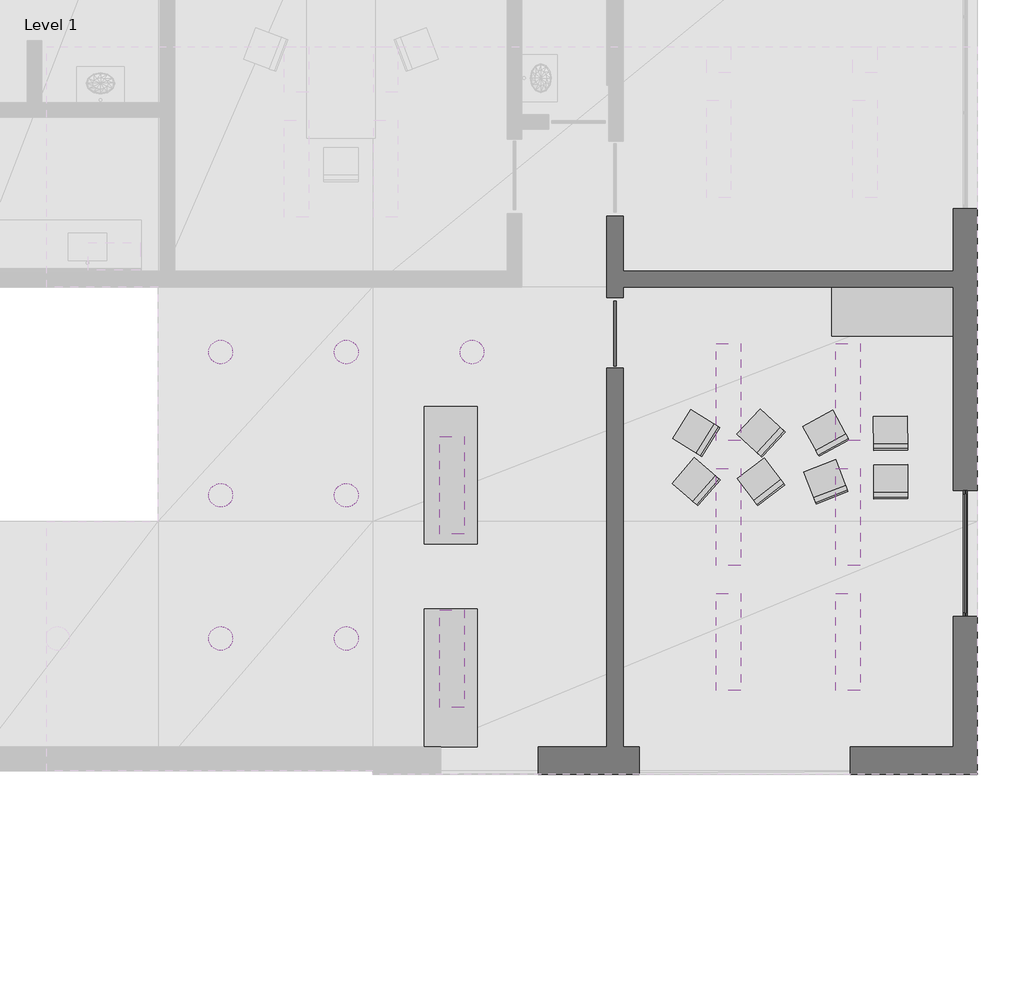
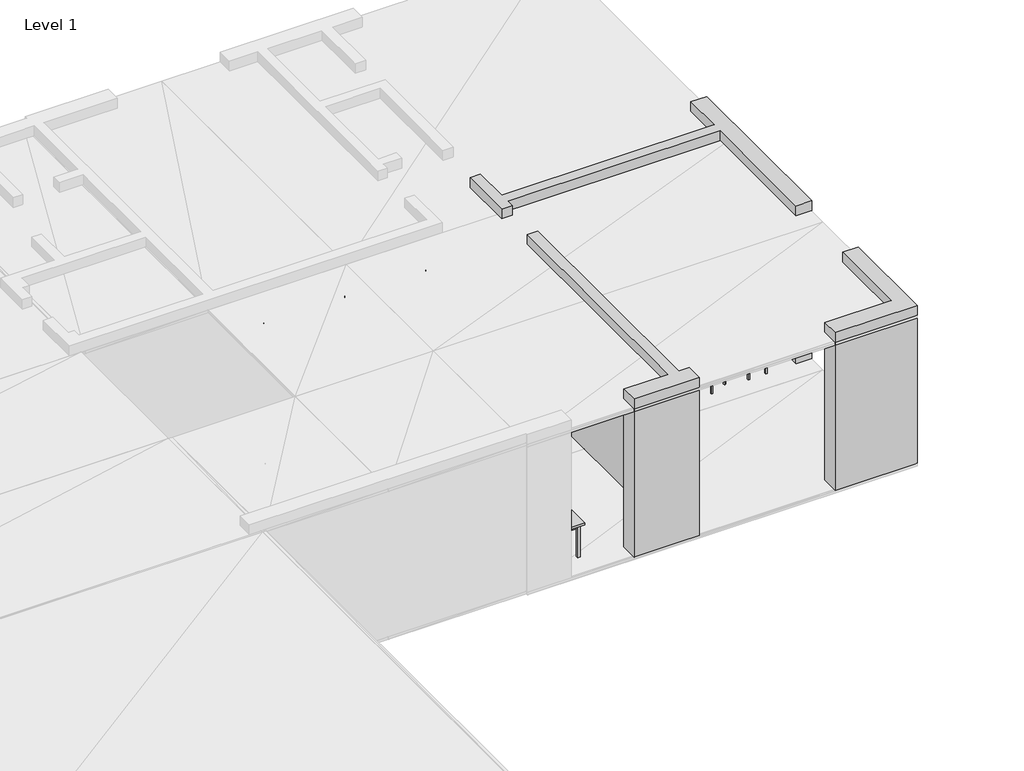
# One storey, part 10 of 14: 34 proxies.
"""IFC4 building model written with IfcOpenShell, lengths in millimetres."""

from ifc_helpers import new_model, si_unit, frame, origin, origin_with_axes, place, context, project, spatial, polyline, outline, extrude, faceted_brep, element, save

model = new_model("IFC4")

# Units and contexts
model_context = context("Model", 3, world=origin())
ifc_project = project(units=[si_unit("LENGTHUNIT", "METRE", prefix="MILLI")], contexts=[model_context])

# Site, building, storey
site = spatial("IfcSite", under=ifc_project)
building = spatial("IfcBuilding", under=site)
storey = spatial("IfcBuildingStorey", under=building, Name="Level 1", Elevation=0.0)

# Proxies
placement = place(None, origin())
element("IfcBuildingElementProxy", 1, Name="Generic Models", at=placement, inside=storey, context=model_context, shape_type="SweptSolid", body=[
    extrude(outline(polyline([(22366.018295, 10130.000114), (21116.018295, 10130.000114), (21116.018295, 10470.000267), (21966.016769, 10470.000267), (21966.016769, 15144.158363), (22166.017532, 15144.158363), (22166.017532, 10470.000267), (22366.018295, 10470.000267), (22366.018295, 10130.000114)])), origin_with_axes(), (0.0, 0.0, 1.0), 3200.000048),
])
element("IfcBuildingElementProxy", 2, Name="Generic Models", at=placement, inside=storey, context=model_context, shape_type="SweptSolid", body=[
    extrude(outline(polyline([(26536.018372, 10130.000114), (24966.016769, 10130.000114), (24966.016769, 10470.000267), (26236.017227, 10470.000267), (26236.017227, 12079.999924), (26536.018372, 12079.999924), (26536.018372, 10130.000114)])), origin_with_axes(), (0.0, 0.0, 1.0), 3200.000048),
])
element("IfcBuildingElementProxy", 3, Name="Generic Models", at=placement, inside=storey, context=model_context, shape_type="Brep", body=[
    faceted_brep([(21966.016769, 17020.000458, 2099.999905), (22166.017532, 17020.000458, 2099.999905), (22166.017532, 17020.000458, 0.0), (21966.016769, 17020.000458, 0.0), (21966.016769, 17040.000916, 2099.999905), (22166.017532, 17040.000916, 2099.999905), (21966.016769, 16014.158249, 2099.999905), (21966.016769, 16014.158249, 0.0), (22166.017532, 16014.158249, 0.0), (22166.017532, 16014.158249, 2099.999905), (22166.017532, 15994.157791, 2099.999905), (21966.016769, 15994.157791, 2099.999905), (26236.017227, 17110.00061, 0.0), (26236.017227, 16340.000153, 0.0), (26236.017227, 16340.000153, 3200.000048), (26236.017227, 17110.00061, 3200.000048), (26536.018372, 17110.00061, 0.0), (26536.018372, 17110.00061, 3200.000048), (26536.018372, 13630.000114, 0.0), (26536.018372, 13630.000114, 3200.000048), (26236.017227, 13630.000114, 0.0), (26236.017227, 13630.000114, 3200.000048), (26236.017227, 16140.001297, 0.0), (26236.017227, 16140.001297, 3200.000048), (22166.017532, 16140.001297, 0.0), (22166.017532, 16140.001297, 3200.000048), (22166.017532, 15994.157791, 3200.000048), (21966.016769, 15994.157791, 3200.000048), (21966.016769, 17040.000916, 3200.000048), (22166.017532, 17040.000916, 3200.000048), (22166.017532, 16340.000153, 3200.000048), (22166.017532, 16340.000153, 0.0)], [[[0, 1, 2, 3]], [[4, 5, 1, 0]], [[6, 7, 8, 9]], [[10, 11, 6, 9]], [[12, 13, 14, 15]], [[16, 12, 15, 17]], [[18, 16, 17, 19]], [[20, 18, 19, 21]], [[22, 20, 21, 23]], [[24, 22, 23, 25]], [[9, 8, 24, 25, 26, 10]], [[10, 26, 27, 11]], [[3, 7, 6, 11, 27, 28, 4, 0]], [[4, 28, 29, 5]], [[1, 5, 29, 30, 31, 2]], [[13, 31, 30, 14]], [[30, 29, 28, 27, 26, 25, 23, 21, 19, 17, 15, 14]], [[16, 18, 20, 22, 24, 8, 7, 3, 2, 31, 13, 12]]]),
])
element("IfcBuildingElementProxy", 4, Name="Generic Models", at=placement, inside=storey, context=model_context, shape_type="SweptSolid", body=[
    extrude(outline(polyline([(22048.517227, 15968.658447), (22083.517075, 15968.658447), (22083.517075, 15169.657707), (22048.517227, 15169.657707), (22048.517227, 15968.658447)])), origin_with_axes(), (0.0, 0.0, 1.0), 2099.999905),
])
element("IfcBuildingElementProxy", 5, Name="Generic Models", at=placement, inside=storey, context=model_context, shape_type="SweptSolid", body=[
    extrude(outline(polyline([(26408.500671, 13587.499619), (26363.500595, 13587.499619), (26363.500595, 13632.499695), (26408.500671, 13632.499695), (26408.500671, 13587.499619)])), frame((0.0, 0.0, 850.000024), z_axis=(0.0, 0.0, 1.0), x_axis=(1.0, 0.0, 0.0)), (0.0, 0.0, 1.0), 1499.999881),
    extrude(outline(polyline([(26408.500671, 12077.500343), (26363.500595, 12077.500343), (26363.500595, 12122.50042), (26408.500671, 12122.50042), (26408.500671, 12077.500343)])), frame((0.0, 0.0, 850.000024), z_axis=(0.0, 0.0, 1.0), x_axis=(1.0, 0.0, 0.0)), (0.0, 0.0, 1.0), 1499.999881),
    extrude(outline(polyline([(26408.500671, 12079.999924), (26363.500595, 12079.999924), (26363.500595, 13630.000114), (26408.500671, 13630.000114), (26408.500671, 12079.999924)])), frame((0.0, 0.0, 2327.500105), z_axis=(0.0, 0.0, 1.0), x_axis=(1.0, 0.0, 0.0)), (0.0, 0.0, 1.0), 44.999838),
    extrude(outline(polyline([(26408.500671, 12079.999924), (26363.500595, 12079.999924), (26363.500595, 13630.000114), (26408.500671, 13630.000114), (26408.500671, 12079.999924)])), frame((0.0, 0.0, 827.499986), z_axis=(0.0, 0.0, 1.0), x_axis=(1.0, 0.0, 0.0)), (0.0, 0.0, 1.0), 45.000016),
    extrude(outline(polyline([(26395.000458, 12079.999924), (26377.000809, 12079.999924), (26377.000809, 13630.000114), (26395.000458, 13630.000114), (26395.000458, 12079.999924)])), frame((0.0, 0.0, 850.000024), z_axis=(0.0, 0.0, 1.0), x_axis=(1.0, 0.0, 0.0)), (0.0, 0.0, 1.0), 1499.999881),
])
element("IfcBuildingElementProxy", 6, Name="Generic Models", at=placement, inside=storey, context=model_context, shape_type="SweptSolid", body=[
    extrude(outline(polyline([(19716.016769, 12970.000267), (19716.016769, 14670.000076), (20366.018295, 14670.000076), (20366.018295, 12970.000267), (19716.016769, 12970.000267)])), frame((0.0, 0.0, 709.999979), z_axis=(0.0, 0.0, 1.0), x_axis=(1.0, 0.0, 0.0)), (0.0, 0.0, 1.0), 40.000021),
])
element("IfcBuildingElementProxy", 7, Name="Generic Models", at=placement, inside=storey, context=model_context, shape_type="SweptSolid", body=[
    extrude(outline(polyline([(19716.016769, 10470.000267), (19716.016769, 12170.000076), (20366.018295, 12170.000076), (20366.018295, 10470.000267), (19716.016769, 10470.000267)])), frame((0.0, 0.0, 709.999979), z_axis=(0.0, 0.0, 1.0), x_axis=(1.0, 0.0, 0.0)), (0.0, 0.0, 1.0), 40.000021),
])
element("IfcBuildingElementProxy", 8, Name="Generic Models", at=placement, inside=storey, context=model_context, shape_type="SweptSolid", body=[
    extrude(outline(polyline([(23614.358902, 14246.0289), (23314.359665, 14246.0289), (23314.359665, 15446.029663), (23614.358902, 15446.029663), (23614.358902, 14246.0289)])), frame((0.0, 0.0, 2910.000086), z_axis=(0.0, 0.0, 1.0), x_axis=(1.0, 0.0, 0.0)), (0.0, 0.0, 1.0), 39.999962),
])
element("IfcBuildingElementProxy", 9, Name="Generic Models", at=placement, inside=storey, context=model_context, shape_type="SweptSolid", body=[
    extrude(outline(polyline([(25087.715149, 14246.0289), (24787.715912, 14246.0289), (24787.715912, 15446.029663), (25087.715149, 15446.029663), (25087.715149, 14246.0289)])), frame((0.0, 0.0, 2910.000086), z_axis=(0.0, 0.0, 1.0), x_axis=(1.0, 0.0, 0.0)), (0.0, 0.0, 1.0), 39.999962),
])
element("IfcBuildingElementProxy", 10, Name="Generic Models", at=placement, inside=storey, context=model_context, shape_type="SweptSolid", body=[
    extrude(outline(polyline([(23614.358902, 12704.999924), (23314.359665, 12704.999924), (23314.359665, 13905.000687), (23614.358902, 13905.000687), (23614.358902, 12704.999924)])), frame((0.0, 0.0, 2910.000086), z_axis=(0.0, 0.0, 1.0), x_axis=(1.0, 0.0, 0.0)), (0.0, 0.0, 1.0), 39.999962),
])
element("IfcBuildingElementProxy", 11, Name="Generic Models", at=placement, inside=storey, context=model_context, shape_type="SweptSolid", body=[
    extrude(outline(polyline([(25087.715149, 12704.999924), (24787.715912, 12704.999924), (24787.715912, 13905.000687), (25087.715149, 13905.000687), (25087.715149, 12704.999924)])), frame((0.0, 0.0, 2910.000086), z_axis=(0.0, 0.0, 1.0), x_axis=(1.0, 0.0, 0.0)), (0.0, 0.0, 1.0), 39.999962),
])
element("IfcBuildingElementProxy", 12, Name="Generic Models", at=placement, inside=storey, context=model_context, shape_type="SweptSolid", body=[
    extrude(outline(polyline([(23614.358902, 11163.971901), (23314.359665, 11163.971901), (23314.359665, 12363.972664), (23614.358902, 12363.972664), (23614.358902, 11163.971901)])), frame((0.0, 0.0, 2910.000086), z_axis=(0.0, 0.0, 1.0), x_axis=(1.0, 0.0, 0.0)), (0.0, 0.0, 1.0), 39.999962),
])
element("IfcBuildingElementProxy", 13, Name="Generic Models", at=placement, inside=storey, context=model_context, shape_type="SweptSolid", body=[
    extrude(outline(polyline([(25087.715149, 11163.971901), (24787.715912, 11163.971901), (24787.715912, 12363.972664), (25087.715149, 12363.972664), (25087.715149, 11163.971901)])), frame((0.0, 0.0, 2910.000086), z_axis=(0.0, 0.0, 1.0), x_axis=(1.0, 0.0, 0.0)), (0.0, 0.0, 1.0), 39.999962),
])
element("IfcBuildingElementProxy", 14, Name="Generic Models", at=placement, inside=storey, context=model_context, shape_type="SweptSolid", body=[
    extrude(outline(polyline([(20204.330444, 10957.942963), (19904.331207, 10957.942963), (19904.331207, 12157.943726), (20204.330444, 12157.943726), (20204.330444, 10957.942963)])), frame((0.0, 0.0, 2910.000086), z_axis=(0.0, 0.0, 1.0), x_axis=(1.0, 0.0, 0.0)), (0.0, 0.0, 1.0), 39.999962),
])
element("IfcBuildingElementProxy", 15, Name="Generic Models", at=placement, inside=storey, context=model_context, shape_type="SweptSolid", body=[
    extrude(outline(polyline([(20204.330444, 13097.499847), (19904.331207, 13097.499847), (19904.331207, 14297.50061), (20204.330444, 14297.50061), (20204.330444, 13097.499847)])), frame((0.0, 0.0, 2910.000086), z_axis=(0.0, 0.0, 1.0), x_axis=(1.0, 0.0, 0.0)), (0.0, 0.0, 1.0), 39.999962),
])
element("IfcBuildingElementProxy", 16, Name="Generic Models", at=placement, inside=storey, context=model_context, shape_type="SweptSolid", body=[
    extrude(outline(polyline([(18887.9776, 11748.607635), (18874.361038, 11723.13118), (18856.033325, 11700.800896), (18833.703995, 11682.47509), (18808.227539, 11668.857574), (18780.584335, 11660.471916), (18751.834869, 11657.640457), (18723.085403, 11660.471916), (18695.4422, 11668.857574), (18669.965744, 11682.47509), (18647.636414, 11700.800896), (18629.308701, 11723.13118), (18615.692139, 11748.607635), (18607.305527, 11776.251793), (18604.475021, 11805.000305), (18607.305527, 11833.748817), (18615.692139, 11861.392975), (18629.308701, 11886.869431), (18647.636414, 11909.199715), (18669.965744, 11927.52552), (18695.4422, 11941.143036), (18723.085403, 11949.528694), (18751.834869, 11952.360153), (18780.584335, 11949.528694), (18808.227539, 11941.143036), (18833.703995, 11927.52552), (18856.033325, 11909.199715), (18874.361038, 11886.869431), (18887.9776, 11861.392975), (18896.364212, 11833.748817), (18899.194717, 11805.000305), (18896.364212, 11776.251793), (18887.9776, 11748.607635)])), frame((0.0, 0.0, 2910.000086), z_axis=(0.0, 0.0, 1.0), x_axis=(1.0, 0.0, 0.0)), (0.0, 0.0, 1.0), 39.999962),
])
element("IfcBuildingElementProxy", 17, Name="Generic Models", at=placement, inside=storey, context=model_context, shape_type="SweptSolid", body=[
    extrude(outline(polyline([(17337.978363, 11748.607635), (17324.361801, 11723.13118), (17306.034088, 11700.800896), (17283.704758, 11682.47509), (17258.228302, 11668.857574), (17230.585098, 11660.471916), (17201.835632, 11657.640457), (17173.086166, 11660.471916), (17145.442963, 11668.857574), (17119.966507, 11682.47509), (17097.637177, 11700.800896), (17079.309464, 11723.13118), (17065.692902, 11748.607635), (17057.30629, 11776.251793), (17054.475784, 11805.000305), (17057.30629, 11833.748817), (17065.692902, 11861.392975), (17079.309464, 11886.869431), (17097.637177, 11909.199715), (17119.966507, 11927.52552), (17145.442963, 11941.143036), (17173.086166, 11949.528694), (17201.835632, 11952.360153), (17230.585098, 11949.528694), (17258.228302, 11941.143036), (17283.704758, 11927.52552), (17306.034088, 11909.199715), (17324.361801, 11886.869431), (17337.978363, 11861.392975), (17346.364975, 11833.748817), (17349.19548, 11805.000305), (17346.364975, 11776.251793), (17337.978363, 11748.607635)])), frame((0.0, 0.0, 2910.000086), z_axis=(0.0, 0.0, 1.0), x_axis=(1.0, 0.0, 0.0)), (0.0, 0.0, 1.0), 39.999962),
])
element("IfcBuildingElementProxy", 18, Name="Generic Models", at=placement, inside=storey, context=model_context, shape_type="SweptSolid", body=[
    extrude(outline(polyline([(18887.9776, 13516.107559), (18874.361038, 13490.631104), (18856.033325, 13468.300819), (18833.703995, 13449.975014), (18808.227539, 13436.357498), (18780.584335, 13427.97184), (18751.834869, 13425.140381), (18723.085403, 13427.97184), (18695.4422, 13436.357498), (18669.965744, 13449.975014), (18647.636414, 13468.300819), (18629.308701, 13490.631104), (18615.692139, 13516.107559), (18607.305527, 13543.751717), (18604.475021, 13572.500229), (18607.305527, 13601.248741), (18615.692139, 13628.892899), (18629.308701, 13654.369354), (18647.636414, 13676.699638), (18669.965744, 13695.025444), (18695.4422, 13708.64296), (18723.085403, 13717.028618), (18751.834869, 13719.860077), (18780.584335, 13717.028618), (18808.227539, 13708.64296), (18833.703995, 13695.025444), (18856.033325, 13676.699638), (18874.361038, 13654.369354), (18887.9776, 13628.892899), (18896.364212, 13601.248741), (18899.194717, 13572.500229), (18896.364212, 13543.751717), (18887.9776, 13516.107559)])), frame((0.0, 0.0, 2910.000086), z_axis=(0.0, 0.0, 1.0), x_axis=(1.0, 0.0, 0.0)), (0.0, 0.0, 1.0), 39.999962),
])
element("IfcBuildingElementProxy", 19, Name="Generic Models", at=placement, inside=storey, context=model_context, shape_type="SweptSolid", body=[
    extrude(outline(polyline([(17337.978363, 13516.107559), (17324.361801, 13490.631104), (17306.034088, 13468.300819), (17283.704758, 13449.975014), (17258.228302, 13436.357498), (17230.585098, 13427.97184), (17201.835632, 13425.140381), (17173.086166, 13427.97184), (17145.442963, 13436.357498), (17119.966507, 13449.975014), (17097.637177, 13468.300819), (17079.309464, 13490.631104), (17065.692902, 13516.107559), (17057.30629, 13543.751717), (17054.475784, 13572.500229), (17057.30629, 13601.248741), (17065.692902, 13628.892899), (17079.309464, 13654.369354), (17097.637177, 13676.699638), (17119.966507, 13695.025444), (17145.442963, 13708.64296), (17173.086166, 13717.028618), (17201.835632, 13719.860077), (17230.585098, 13717.028618), (17258.228302, 13708.64296), (17283.704758, 13695.025444), (17306.034088, 13676.699638), (17324.361801, 13654.369354), (17337.978363, 13628.892899), (17346.364975, 13601.248741), (17349.19548, 13572.500229), (17346.364975, 13543.751717), (17337.978363, 13516.107559)])), frame((0.0, 0.0, 2910.000086), z_axis=(0.0, 0.0, 1.0), x_axis=(1.0, 0.0, 0.0)), (0.0, 0.0, 1.0), 39.999962),
])
element("IfcBuildingElementProxy", 20, Name="Generic Models", at=placement, inside=storey, context=model_context, shape_type="SweptSolid", body=[
    extrude(outline(polyline([(18887.9776, 15283.607483), (18874.361038, 15258.131027), (18856.033325, 15235.800743), (18833.703995, 15217.474937), (18808.227539, 15203.857422), (18780.584335, 15195.471764), (18751.834869, 15192.640305), (18723.085403, 15195.471764), (18695.4422, 15203.857422), (18669.965744, 15217.474937), (18647.636414, 15235.800743), (18629.308701, 15258.131027), (18615.692139, 15283.607483), (18607.305527, 15311.25164), (18604.475021, 15340.000153), (18607.305527, 15368.748665), (18615.692139, 15396.392822), (18629.308701, 15421.869278), (18647.636414, 15444.199562), (18669.965744, 15462.525368), (18695.4422, 15476.142883), (18723.085403, 15484.528542), (18751.834869, 15487.360001), (18780.584335, 15484.528542), (18808.227539, 15476.142883), (18833.703995, 15462.525368), (18856.033325, 15444.199562), (18874.361038, 15421.869278), (18887.9776, 15396.392822), (18896.364212, 15368.748665), (18899.194717, 15340.000153), (18896.364212, 15311.25164), (18887.9776, 15283.607483)])), frame((0.0, 0.0, 2910.000086), z_axis=(0.0, 0.0, 1.0), x_axis=(1.0, 0.0, 0.0)), (0.0, 0.0, 1.0), 39.999962),
])
element("IfcBuildingElementProxy", 21, Name="Generic Models", at=placement, inside=storey, context=model_context, shape_type="SweptSolid", body=[
    extrude(outline(polyline([(17337.978363, 15283.607483), (17324.361801, 15258.131027), (17306.034088, 15235.800743), (17283.704758, 15217.474937), (17258.228302, 15203.857422), (17230.585098, 15195.471764), (17201.835632, 15192.640305), (17173.086166, 15195.471764), (17145.442963, 15203.857422), (17119.966507, 15217.474937), (17097.637177, 15235.800743), (17079.309464, 15258.131027), (17065.692902, 15283.607483), (17057.30629, 15311.25164), (17054.475784, 15340.000153), (17057.30629, 15368.748665), (17065.692902, 15396.392822), (17079.309464, 15421.869278), (17097.637177, 15444.199562), (17119.966507, 15462.525368), (17145.442963, 15476.142883), (17173.086166, 15484.528542), (17201.835632, 15487.360001), (17230.585098, 15484.528542), (17258.228302, 15476.142883), (17283.704758, 15462.525368), (17306.034088, 15444.199562), (17324.361801, 15421.869278), (17337.978363, 15396.392822), (17346.364975, 15368.748665), (17349.19548, 15340.000153), (17346.364975, 15311.25164), (17337.978363, 15283.607483)])), frame((0.0, 0.0, 2910.000086), z_axis=(0.0, 0.0, 1.0), x_axis=(1.0, 0.0, 0.0)), (0.0, 0.0, 1.0), 39.999962),
])
element("IfcBuildingElementProxy", 22, Name="Generic Models", at=placement, inside=storey, context=model_context, shape_type="SweptSolid", body=[
    extrude(outline(polyline([(20437.976837, 15283.607483), (20424.360275, 15258.131027), (20406.032562, 15235.800743), (20383.703232, 15217.474937), (20358.226776, 15203.857422), (20330.583572, 15195.471764), (20301.834106, 15192.640305), (20273.084641, 15195.471764), (20245.441437, 15203.857422), (20219.964981, 15217.474937), (20197.635651, 15235.800743), (20179.307938, 15258.131027), (20165.691376, 15283.607483), (20157.304764, 15311.25164), (20154.474258, 15340.000153), (20157.304764, 15368.748665), (20165.691376, 15396.392822), (20179.307938, 15421.869278), (20197.635651, 15444.199562), (20219.964981, 15462.525368), (20245.441437, 15476.142883), (20273.084641, 15484.528542), (20301.834106, 15487.360001), (20330.583572, 15484.528542), (20358.226776, 15476.142883), (20383.703232, 15462.525368), (20406.032562, 15444.199562), (20424.360275, 15421.869278), (20437.976837, 15396.392822), (20446.363449, 15368.748665), (20449.193954, 15340.000153), (20446.363449, 15311.25164), (20437.976837, 15283.607483)])), frame((0.0, 0.0, 2910.000086), z_axis=(0.0, 0.0, 1.0), x_axis=(1.0, 0.0, 0.0)), (0.0, 0.0, 1.0), 39.999962),
])
element("IfcBuildingElementProxy", 23, Name="Generic Models", at=placement, inside=storey, context=model_context, shape_type="SweptSolid", body=[
    extrude(outline(polyline([(23057.971954, 13953.512192), (23036.82518, 13971.863747), (23055.175781, 13993.011475), (23076.322556, 13974.65992), (23057.971954, 13953.512192)])), frame((0.0, 0.0, 50.000001), z_axis=(0.0, 0.0, 1.0), x_axis=(1.0, 0.0, 0.0)), (0.0, 0.0, 1.0), 389.999997),
    extrude(outline(polyline([(23299.661636, 13743.782997), (23278.512955, 13762.134552), (23296.865463, 13783.28228), (23318.012238, 13764.931679), (23299.661636, 13743.782997)])), frame((0.0, 0.0, 50.000001), z_axis=(0.0, 0.0, 1.0), x_axis=(1.0, 0.0, 0.0)), (0.0, 0.0, 1.0), 389.999997),
    extrude(outline(polyline([(22835.134506, 13696.717262), (22813.987732, 13715.068817), (22832.338333, 13736.216545), (22853.487015, 13717.86499), (22835.134506, 13696.717262)])), frame((0.0, 0.0, 50.000001), z_axis=(0.0, 0.0, 1.0), x_axis=(1.0, 0.0, 0.0)), (0.0, 0.0, 1.0), 389.999997),
    extrude(outline(polyline([(23076.824188, 13486.988068), (23055.677414, 13505.339622), (23074.028015, 13526.48735), (23095.174789, 13508.136749), (23076.824188, 13486.988068)])), frame((0.0, 0.0, 50.000001), z_axis=(0.0, 0.0, 1.0), x_axis=(1.0, 0.0, 0.0)), (0.0, 0.0, 1.0), 389.999997),
    extrude(outline(polyline([(23071.868896, 13456.864357), (23026.5522, 13496.189117), (23301.820755, 13813.405991), (23347.137451, 13774.082184), (23071.868896, 13456.864357)])), frame((0.0, 0.0, 460.000008), z_axis=(0.0, 0.0, 1.0), x_axis=(1.0, 0.0, 0.0)), (0.0, 0.0, 1.0), 400.000006),
    extrude(outline(polyline([(23086.97319, 13443.757057), (22769.756317, 13719.025612), (23045.026779, 14036.243439), (23362.243652, 13760.97393), (23086.97319, 13443.757057)])), frame((0.0, 0.0, 417.499989), z_axis=(0.0, 0.0, 1.0), x_axis=(1.0, 0.0, 0.0)), (0.0, 0.0, 1.0), 55.000007),
])
element("IfcBuildingElementProxy", 24, Name="Generic Models", at=placement, inside=storey, context=model_context, shape_type="SweptSolid", body=[
    extrude(outline(polyline([(23024.091721, 14549.512863), (23000.291824, 14564.264297), (23015.043259, 14588.06324), (23038.843155, 14573.311806), (23024.091721, 14549.512863)])), frame((0.0, 0.0, 50.000001), z_axis=(0.0, 0.0, 1.0), x_axis=(1.0, 0.0, 0.0)), (0.0, 0.0, 1.0), 389.999997),
    extrude(outline(polyline([(23296.081543, 14380.925179), (23272.281647, 14395.676613), (23287.033081, 14419.475555), (23310.832977, 14404.724121), (23296.081543, 14380.925179)])), frame((0.0, 0.0, 50.000001), z_axis=(0.0, 0.0, 1.0), x_axis=(1.0, 0.0, 0.0)), (0.0, 0.0, 1.0), 389.999997),
    extrude(outline(polyline([(22844.966888, 14260.523796), (22821.1689, 14275.27523), (22835.918427, 14299.074173), (22859.718323, 14284.322739), (22844.966888, 14260.523796)])), frame((0.0, 0.0, 50.000001), z_axis=(0.0, 0.0, 1.0), x_axis=(1.0, 0.0, 0.0)), (0.0, 0.0, 1.0), 389.999997),
    extrude(outline(polyline([(23116.956711, 14091.937065), (23093.156815, 14106.688499), (23107.908249, 14130.487442), (23131.708145, 14115.736008), (23116.956711, 14091.937065)])), frame((0.0, 0.0, 50.000001), z_axis=(0.0, 0.0, 1.0), x_axis=(1.0, 0.0, 0.0)), (0.0, 0.0, 1.0), 389.999997),
    extrude(outline(polyline([(23116.857529, 14061.408043), (23065.860748, 14093.018532), (23287.130356, 14450.004578), (23338.129044, 14418.394089), (23116.857529, 14061.408043)])), frame((0.0, 0.0, 460.000008), z_axis=(0.0, 0.0, 1.0), x_axis=(1.0, 0.0, 0.0)), (0.0, 0.0, 1.0), 400.000006),
    extrude(outline(polyline([(23133.857727, 14050.871849), (22776.870728, 14272.14241), (22998.142242, 14629.128456), (23355.129242, 14407.857895), (23133.857727, 14050.871849)])), frame((0.0, 0.0, 417.499989), z_axis=(0.0, 0.0, 1.0), x_axis=(1.0, 0.0, 0.0)), (0.0, 0.0, 1.0), 55.000007),
])
element("IfcBuildingElementProxy", 25, Name="Generic Models", at=placement, inside=storey, context=model_context, shape_type="SweptSolid", body=[
    extrude(outline(polyline([(23900.339127, 13950.885773), (23883.237839, 13973.05584), (23905.406952, 13990.158081), (23922.510147, 13967.988014), (23900.339127, 13950.885773)])), frame((0.0, 0.0, 50.000001), z_axis=(0.0, 0.0, 1.0), x_axis=(1.0, 0.0, 0.0)), (0.0, 0.0, 1.0), 389.999997),
    extrude(outline(polyline([(24095.798492, 13697.516441), (24078.695297, 13719.686508), (24100.86441, 13736.78875), (24117.967606, 13714.618683), (24095.798492, 13697.516441)])), frame((0.0, 0.0, 50.000001), z_axis=(0.0, 0.0, 1.0), x_axis=(1.0, 0.0, 0.0)), (0.0, 0.0, 1.0), 389.999997),
    extrude(outline(polyline([(23631.134033, 13743.210793), (23614.032745, 13765.380859), (23636.201859, 13782.484055), (23653.305054, 13760.313988), (23631.134033, 13743.210793)])), frame((0.0, 0.0, 50.000001), z_axis=(0.0, 0.0, 1.0), x_axis=(1.0, 0.0, 0.0)), (0.0, 0.0, 1.0), 389.999997),
    extrude(outline(polyline([(23826.593399, 13489.841461), (23809.490204, 13512.011528), (23831.661224, 13529.114723), (23848.762512, 13506.944656), (23826.593399, 13489.841461)])), frame((0.0, 0.0, 50.000001), z_axis=(0.0, 0.0, 1.0), x_axis=(1.0, 0.0, 0.0)), (0.0, 0.0, 1.0), 389.999997),
    extrude(outline(polyline([(23815.78064, 13461.292267), (23779.130936, 13508.799553), (24111.679077, 13765.337944), (24148.326874, 13717.831612), (23815.78064, 13461.292267)])), frame((0.0, 0.0, 460.000008), z_axis=(0.0, 0.0, 1.0), x_axis=(1.0, 0.0, 0.0)), (0.0, 0.0, 1.0), 400.000006),
    extrude(outline(polyline([(23827.9953, 13445.456505), (23571.456909, 13778.003693), (23904.003143, 14034.543037), (24160.543442, 13701.99585), (23827.9953, 13445.456505)])), frame((0.0, 0.0, 417.499989), z_axis=(0.0, 0.0, 1.0), x_axis=(1.0, 0.0, 0.0)), (0.0, 0.0, 1.0), 55.000007),
])
element("IfcBuildingElementProxy", 26, Name="Generic Models", at=placement, inside=storey, context=model_context, shape_type="SweptSolid", body=[
    extrude(outline(polyline([(23864.85672, 14553.660393), (23844.312668, 14572.683334), (23863.334656, 14593.229294), (23883.880615, 14574.205399), (23864.85672, 14553.660393)])), frame((0.0, 0.0, 50.000001), z_axis=(0.0, 0.0, 1.0), x_axis=(1.0, 0.0, 0.0)), (0.0, 0.0, 1.0), 389.999997),
    extrude(outline(polyline([(24099.662781, 14336.251259), (24079.116821, 14355.2742), (24098.140717, 14375.819206), (24118.684769, 14356.796265), (24099.662781, 14336.251259)])), frame((0.0, 0.0, 50.000001), z_axis=(0.0, 0.0, 1.0), x_axis=(1.0, 0.0, 0.0)), (0.0, 0.0, 1.0), 389.999997),
    extrude(outline(polyline([(23633.859634, 14304.180145), (23613.315582, 14323.204041), (23632.33757, 14343.749046), (23652.88353, 14324.726105), (23633.859634, 14304.180145)])), frame((0.0, 0.0, 50.000001), z_axis=(0.0, 0.0, 1.0), x_axis=(1.0, 0.0, 0.0)), (0.0, 0.0, 1.0), 389.999997),
    extrude(outline(polyline([(23868.663788, 14086.771011), (23848.119736, 14105.793953), (23867.141724, 14126.339912), (23887.687683, 14107.316017), (23868.663788, 14086.771011)])), frame((0.0, 0.0, 50.000001), z_axis=(0.0, 0.0, 1.0), x_axis=(1.0, 0.0, 0.0)), (0.0, 0.0, 1.0), 389.999997),
    extrude(outline(polyline([(23862.739563, 14056.822777), (23818.714142, 14097.586632), (24104.064941, 14405.768394), (24148.090363, 14365.003586), (23862.739563, 14056.822777)])), frame((0.0, 0.0, 460.000008), z_axis=(0.0, 0.0, 1.0), x_axis=(1.0, 0.0, 0.0)), (0.0, 0.0, 1.0), 400.000006),
    extrude(outline(polyline([(23877.414703, 14043.234825), (23569.234848, 14328.584671), (23854.58374, 14636.76548), (24162.765503, 14351.415634), (23877.414703, 14043.234825)])), frame((0.0, 0.0, 417.499989), z_axis=(0.0, 0.0, 1.0), x_axis=(1.0, 0.0, 0.0)), (0.0, 0.0, 1.0), 55.000007),
])
element("IfcBuildingElementProxy", 27, Name="Generic Models", at=placement, inside=storey, context=model_context, shape_type="SweptSolid", body=[
    extrude(outline(polyline([(24758.209229, 13932.742119), (24748.023987, 13958.824158), (24774.106979, 13969.008446), (24784.290314, 13942.926407), (24758.209229, 13932.742119)])), frame((0.0, 0.0, 50.000001), z_axis=(0.0, 0.0, 1.0), x_axis=(1.0, 0.0, 0.0)), (0.0, 0.0, 1.0), 389.999997),
    extrude(outline(polyline([(24874.605179, 13634.661674), (24864.419937, 13660.743713), (24890.501022, 13670.928001), (24900.686264, 13644.845963), (24874.605179, 13634.661674)])), frame((0.0, 0.0, 50.000001), z_axis=(0.0, 0.0, 1.0), x_axis=(1.0, 0.0, 0.0)), (0.0, 0.0, 1.0), 389.999997),
    extrude(outline(polyline([(24441.497803, 13809.071541), (24431.312561, 13835.15358), (24457.395554, 13845.337868), (24467.580795, 13819.255829), (24441.497803, 13809.071541)])), frame((0.0, 0.0, 50.000001), z_axis=(0.0, 0.0, 1.0), x_axis=(1.0, 0.0, 0.0)), (0.0, 0.0, 1.0), 389.999997),
    extrude(outline(polyline([(24557.893753, 13510.991096), (24547.708511, 13537.073135), (24573.791504, 13547.257423), (24583.976746, 13521.175385), (24557.893753, 13510.991096)])), frame((0.0, 0.0, 50.000001), z_axis=(0.0, 0.0, 1.0), x_axis=(1.0, 0.0, 0.0)), (0.0, 0.0, 1.0), 389.999997),
    extrude(outline(polyline([(24539.495468, 13486.629486), (24517.669678, 13542.519569), (24908.901215, 13695.289612), (24930.725098, 13639.399529), (24539.495468, 13486.629486)])), frame((0.0, 0.0, 460.000008), z_axis=(0.0, 0.0, 1.0), x_axis=(1.0, 0.0, 0.0)), (0.0, 0.0, 1.0), 400.000006),
    extrude(outline(polyline([(24546.770096, 13467.999458), (24393.9991, 13859.230995), (24785.230637, 14012.000084), (24937.999725, 13620.769501), (24546.770096, 13467.999458)])), frame((0.0, 0.0, 417.499989), z_axis=(0.0, 0.0, 1.0), x_axis=(1.0, 0.0, 0.0)), (0.0, 0.0, 1.0), 55.000007),
])
element("IfcBuildingElementProxy", 28, Name="Generic Models", at=placement, inside=storey, context=model_context, shape_type="SweptSolid", body=[
    extrude(outline(polyline([(24732.847214, 14542.936325), (24719.417572, 14567.504883), (24743.98613, 14580.936432), (24757.415771, 14556.367874), (24732.847214, 14542.936325)])), frame((0.0, 0.0, 50.000001), z_axis=(0.0, 0.0, 1.0), x_axis=(1.0, 0.0, 0.0)), (0.0, 0.0, 1.0), 389.999997),
    extrude(outline(polyline([(24886.34491, 14262.154579), (24872.915268, 14286.723137), (24897.481918, 14300.154686), (24910.913467, 14275.586128), (24886.34491, 14262.154579)])), frame((0.0, 0.0, 50.000001), z_axis=(0.0, 0.0, 1.0), x_axis=(1.0, 0.0, 0.0)), (0.0, 0.0, 1.0), 389.999997),
    extrude(outline(polyline([(24434.516907, 14379.845619), (24421.085358, 14404.414177), (24445.653915, 14417.844772), (24459.085464, 14393.277168), (24434.516907, 14379.845619)])), frame((0.0, 0.0, 50.000001), z_axis=(0.0, 0.0, 1.0), x_axis=(1.0, 0.0, 0.0)), (0.0, 0.0, 1.0), 389.999997),
    extrude(outline(polyline([(24588.014603, 14099.063873), (24574.583054, 14123.632431), (24599.151611, 14137.063026), (24612.58316, 14112.494469), (24588.014603, 14099.063873)])), frame((0.0, 0.0, 50.000001), z_axis=(0.0, 0.0, 1.0), x_axis=(1.0, 0.0, 0.0)), (0.0, 0.0, 1.0), 389.999997),
    extrude(outline(polyline([(24572.875977, 14072.552681), (24544.095993, 14125.199318), (24912.622452, 14326.664925), (24941.402435, 14274.018288), (24572.875977, 14072.552681)])), frame((0.0, 0.0, 460.000008), z_axis=(0.0, 0.0, 1.0), x_axis=(1.0, 0.0, 0.0)), (0.0, 0.0, 1.0), 400.000006),
    extrude(outline(polyline([(24582.46994, 14055.00412), (24381.004333, 14423.530579), (24749.530792, 14624.996185), (24950.996399, 14256.469727), (24582.46994, 14055.00412)])), frame((0.0, 0.0, 417.499989), z_axis=(0.0, 0.0, 1.0), x_axis=(1.0, 0.0, 0.0)), (0.0, 0.0, 1.0), 55.000007),
])
element("IfcBuildingElementProxy", 29, Name="Generic Models", at=placement, inside=storey, context=model_context, shape_type="SweptSolid", body=[
    extrude(outline(polyline([(25620.601654, 13887.480736), (25620.334625, 13915.478706), (25648.332596, 13915.745735), (25648.599625, 13887.746811), (25620.601654, 13887.480736)])), frame((0.0, 0.0, 50.000001), z_axis=(0.0, 0.0, 1.0), x_axis=(1.0, 0.0, 0.0)), (0.0, 0.0, 1.0), 389.999997),
    extrude(outline(polyline([(25623.651505, 13567.494392), (25623.384476, 13595.493317), (25651.382446, 13595.760345), (25651.649475, 13567.761421), (25623.651505, 13567.494392)])), frame((0.0, 0.0, 50.000001), z_axis=(0.0, 0.0, 1.0), x_axis=(1.0, 0.0, 0.0)), (0.0, 0.0, 1.0), 389.999997),
    extrude(outline(polyline([(25280.61676, 13884.239197), (25280.349731, 13912.238121), (25308.347702, 13912.50515), (25308.614731, 13884.506226), (25280.61676, 13884.239197)])), frame((0.0, 0.0, 50.000001), z_axis=(0.0, 0.0, 1.0), x_axis=(1.0, 0.0, 0.0)), (0.0, 0.0, 1.0), 389.999997),
    extrude(outline(polyline([(25283.666611, 13564.253807), (25283.399582, 13592.252731), (25311.39946, 13592.51976), (25311.666489, 13564.520836), (25283.666611, 13564.253807)])), frame((0.0, 0.0, 50.000001), z_axis=(0.0, 0.0, 1.0), x_axis=(1.0, 0.0, 0.0)), (0.0, 0.0, 1.0), 389.999997),
    extrude(outline(polyline([(25257.820129, 13548.007011), (25257.247925, 13608.00457), (25677.228928, 13612.007141), (25677.801132, 13552.010536), (25257.820129, 13548.007011)])), frame((0.0, 0.0, 460.000008), z_axis=(0.0, 0.0, 1.0), x_axis=(1.0, 0.0, 0.0)), (0.0, 0.0, 1.0), 400.000006),
    extrude(outline(polyline([(25258.010864, 13528.007507), (25254.007339, 13947.98851), (25673.988342, 13951.992035), (25677.991867, 13532.011032), (25258.010864, 13528.007507)])), frame((0.0, 0.0, 417.499989), z_axis=(0.0, 0.0, 1.0), x_axis=(1.0, 0.0, 0.0)), (0.0, 0.0, 1.0), 55.000007),
])
element("IfcBuildingElementProxy", 30, Name="Generic Models", at=placement, inside=storey, context=model_context, shape_type="SweptSolid", body=[
    extrude(outline(polyline([(25620.037079, 14488.068581), (25619.665146, 14516.066551), (25647.661209, 14516.439438), (25648.035049, 14488.442421), (25620.037079, 14488.068581)])), frame((0.0, 0.0, 50.000001), z_axis=(0.0, 0.0, 1.0), x_axis=(1.0, 0.0, 0.0)), (0.0, 0.0, 1.0), 389.999997),
    extrude(outline(polyline([(25624.307632, 14168.097496), (25623.933792, 14196.094513), (25651.931763, 14196.468353), (25652.305603, 14168.470383), (25624.307632, 14168.097496)])), frame((0.0, 0.0, 50.000001), z_axis=(0.0, 0.0, 1.0), x_axis=(1.0, 0.0, 0.0)), (0.0, 0.0, 1.0), 389.999997),
    extrude(outline(polyline([(25280.067444, 14483.531952), (25279.693604, 14511.528969), (25307.691574, 14511.902809), (25308.065414, 14483.905792), (25280.067444, 14483.531952)])), frame((0.0, 0.0, 50.000001), z_axis=(0.0, 0.0, 1.0), x_axis=(1.0, 0.0, 0.0)), (0.0, 0.0, 1.0), 389.999997),
    extrude(outline(polyline([(25284.337997, 14163.559914), (25283.964157, 14191.557884), (25311.962128, 14191.931725), (25312.335968, 14163.933754), (25284.337997, 14163.559914)])), frame((0.0, 0.0, 50.000001), z_axis=(0.0, 0.0, 1.0), x_axis=(1.0, 0.0, 0.0)), (0.0, 0.0, 1.0), 389.999997),
    extrude(outline(polyline([(25258.554459, 14147.21489), (25257.753372, 14207.209587), (25677.715302, 14212.813377), (25678.516388, 14152.81868), (25258.554459, 14147.21489)])), frame((0.0, 0.0, 460.000008), z_axis=(0.0, 0.0, 1.0), x_axis=(1.0, 0.0, 0.0)), (0.0, 0.0, 1.0), 400.000006),
    extrude(outline(polyline([(25258.821487, 14127.216339), (25253.21579, 14547.179222), (25673.179626, 14552.783966), (25678.783417, 14132.821083), (25258.821487, 14127.216339)])), frame((0.0, 0.0, 417.499989), z_axis=(0.0, 0.0, 1.0), x_axis=(1.0, 0.0, 0.0)), (0.0, 0.0, 1.0), 55.000007),
])
element("IfcBuildingElementProxy", 31, Name="Generic Models", at=placement, inside=storey, context=model_context, shape_type="SweptSolid", body=[
    extrude(outline(polyline([(24736.017227, 15539.999962), (24736.017227, 16140.001297), (26236.017227, 16140.001297), (26236.017227, 15539.999962), (24736.017227, 15539.999962)])), frame((0.0, 0.0, 709.999979), z_axis=(0.0, 0.0, 1.0), x_axis=(1.0, 0.0, 0.0)), (0.0, 0.0, 1.0), 40.000021),
])
element("IfcBuildingElementProxy", 32, Name="Generic Models", at=placement, inside=storey, context=model_context, shape_type="Brep", body=[
    faceted_brep([(24833.5170746, 15637.5007629, 50.0000007), (24788.5169983, 15592.5006866, 50.0000007), (24788.5169983, 15637.5007629, 50.0000007), (24788.5169983, 15637.5007629, 709.9999785), (24788.5169983, 15592.5006866, 709.9999785), (24833.5170746, 15637.5007629, 709.9999785), (24833.5170746, 15592.5006866, 50.0000007), (24833.5170746, 15592.5006866, 709.9999785)], [[[0, 1, 2]], [[3, 4, 5]], [[5, 0, 3]], [[6, 1, 0]], [[5, 4, 7]], [[7, 1, 6]], [[4, 1, 7]], [[5, 6, 0]], [[7, 6, 5]], [[3, 0, 2]], [[4, 2, 1]], [[3, 2, 4]]]),
    faceted_brep([(24788.5169983, 16087.4996185, 709.9999785), (24788.5169983, 16042.4995422, 709.9999785), (24833.5170746, 16087.4996185, 709.9999785), (24788.5169983, 16042.4995422, 50.0000007), (24833.5170746, 16042.4995422, 709.9999785), (24833.5170746, 16087.4996185, 50.0000007), (24788.5169983, 16087.4996185, 50.0000007), (24833.5170746, 16042.4995422, 50.0000007)], [[[0, 1, 2]], [[1, 3, 4]], [[0, 5, 6]], [[1, 6, 3]], [[5, 3, 6]], [[7, 3, 5]], [[2, 1, 4]], [[4, 3, 7]], [[2, 7, 5]], [[4, 7, 2]], [[2, 5, 0]], [[0, 6, 1]]]),
    faceted_brep([(26183.5174561, 15592.5006866, 709.9999785), (26138.5173798, 15592.5006866, 50.0000007), (26183.5174561, 15592.5006866, 50.0000007), (26138.5173798, 15637.5007629, 709.9999785), (26183.5174561, 15637.5007629, 50.0000007), (26138.5173798, 15637.5007629, 50.0000007), (26183.5174561, 15637.5007629, 709.9999785), (26138.5173798, 15592.5006866, 709.9999785)], [[[0, 1, 2]], [[3, 4, 5]], [[4, 1, 5]], [[2, 1, 4]], [[6, 7, 0]], [[3, 7, 6]], [[7, 1, 0]], [[6, 2, 4]], [[0, 2, 6]], [[6, 4, 3]], [[7, 5, 1]], [[3, 5, 7]]]),
    faceted_brep([(26183.5174561, 16087.4996185, 50.0000007), (26138.5173798, 16042.4995422, 50.0000007), (26138.5173798, 16087.4996185, 50.0000007), (26183.5174561, 16042.4995422, 709.9999785), (26183.5174561, 16042.4995422, 50.0000007), (26183.5174561, 16087.4996185, 709.9999785), (26138.5173798, 16087.4996185, 709.9999785), (26138.5173798, 16042.4995422, 709.9999785)], [[[0, 1, 2]], [[3, 1, 4]], [[5, 4, 0]], [[5, 0, 6]], [[4, 1, 0]], [[5, 7, 3]], [[6, 7, 5]], [[7, 1, 3]], [[3, 4, 5]], [[6, 0, 2]], [[7, 2, 1]], [[6, 2, 7]]]),
    faceted_brep([(26161.0183716, 15592.5006866, 709.9999785), (26161.0183716, 15592.5006866, 639.9999857), (26161.0183716, 15637.5007629, 709.9999785), (24811.0179901, 15592.5006866, 709.9999785), (24811.0179901, 15637.5007629, 639.9999857), (24811.0179901, 15592.5006866, 639.9999857), (26161.0183716, 15637.5007629, 639.9999857), (24811.0179901, 15637.5007629, 709.9999785)], [[[0, 1, 2]], [[3, 4, 5]], [[6, 5, 4]], [[1, 5, 6]], [[2, 3, 0]], [[7, 3, 2]], [[0, 5, 1]], [[3, 5, 0]], [[2, 1, 6]], [[7, 6, 4]], [[2, 6, 7]], [[7, 4, 3]]]),
    faceted_brep([(24811.0179901, 16087.4996185, 709.9999785), (24811.0179901, 16042.4995422, 709.9999785), (26161.0183716, 16087.4996185, 709.9999785), (26161.0183716, 16087.4996185, 639.9999857), (24811.0179901, 16087.4996185, 639.9999857), (24811.0179901, 16042.4995422, 639.9999857), (26161.0183716, 16042.4995422, 639.9999857), (26161.0183716, 16042.4995422, 709.9999785)], [[[0, 1, 2]], [[0, 3, 4]], [[3, 5, 4]], [[6, 5, 3]], [[2, 1, 7]], [[7, 5, 6]], [[1, 5, 7]], [[2, 6, 3]], [[7, 6, 2]], [[2, 3, 0]], [[1, 4, 5]], [[0, 4, 1]]]),
    faceted_brep([(24788.5169983, 16065.0005341, 709.9999785), (24833.5170746, 15615.0007248, 709.9999785), (24833.5170746, 16065.0005341, 709.9999785), (24788.5169983, 16065.0005341, 639.9999857), (24833.5170746, 15615.0007248, 639.9999857), (24788.5169983, 15615.0007248, 639.9999857), (24833.5170746, 16065.0005341, 639.9999857), (24788.5169983, 15615.0007248, 709.9999785)], [[[0, 1, 2]], [[3, 4, 5]], [[6, 4, 3]], [[7, 1, 0]], [[2, 4, 6]], [[1, 4, 2]], [[0, 6, 3]], [[2, 6, 0]], [[7, 3, 5]], [[0, 3, 7]], [[1, 5, 4]], [[7, 5, 1]]]),
    faceted_brep([(26138.5173798, 16065.0005341, 639.9999857), (26183.5174561, 15615.0007248, 639.9999857), (26138.5173798, 15615.0007248, 639.9999857), (26183.5174561, 16065.0005341, 639.9999857), (26138.5173798, 16065.0005341, 709.9999785), (26183.5174561, 15615.0007248, 709.9999785), (26183.5174561, 16065.0005341, 709.9999785), (26138.5173798, 15615.0007248, 709.9999785)], [[[0, 1, 2]], [[3, 1, 0]], [[4, 5, 6]], [[7, 5, 4]], [[6, 1, 3]], [[5, 1, 6]], [[4, 3, 0]], [[6, 3, 4]], [[7, 0, 2]], [[4, 0, 7]], [[5, 2, 1]], [[7, 2, 5]]]),
])
element("IfcBuildingElementProxy", 33, Name="Generic Models", at=placement, inside=storey, context=model_context, shape_type="SweptSolid", body=[
    extrude(outline(polyline([(20313.518524, 13045.000076), (20268.518448, 13045.000076), (20268.518448, 14595.000267), (20313.518524, 14595.000267), (20313.518524, 13045.000076)])), frame((0.0, 0.0, 639.999986), z_axis=(0.0, 0.0, 1.0), x_axis=(1.0, 0.0, 0.0)), (0.0, 0.0, 1.0), 69.999993),
    extrude(outline(polyline([(19813.516617, 13045.000076), (19768.516541, 13045.000076), (19768.516541, 14595.000267), (19813.516617, 14595.000267), (19813.516617, 13045.000076)])), frame((0.0, 0.0, 639.999986), z_axis=(0.0, 0.0, 1.0), x_axis=(1.0, 0.0, 0.0)), (0.0, 0.0, 1.0), 69.999993),
    extrude(outline(polyline([(19791.017532, 14572.500229), (19791.017532, 14617.500305), (20291.017532, 14617.500305), (20291.017532, 14572.500229), (19791.017532, 14572.500229)])), frame((0.0, 0.0, 639.999986), z_axis=(0.0, 0.0, 1.0), x_axis=(1.0, 0.0, 0.0)), (0.0, 0.0, 1.0), 69.999993),
    extrude(outline(polyline([(19791.017532, 13022.500038), (19791.017532, 13067.500114), (20291.017532, 13067.500114), (20291.017532, 13022.500038), (19791.017532, 13022.500038)])), frame((0.0, 0.0, 639.999986), z_axis=(0.0, 0.0, 1.0), x_axis=(1.0, 0.0, 0.0)), (0.0, 0.0, 1.0), 69.999993),
    extrude(outline(polyline([(20266.643524, 14570.625305), (20266.643524, 14619.375229), (20315.393448, 14619.375229), (20315.393448, 14570.625305), (20266.643524, 14570.625305)])), frame((0.0, 0.0, 50.000001), z_axis=(0.0, 0.0, 1.0), x_axis=(1.0, 0.0, 0.0)), (0.0, 0.0, 1.0), 659.999978),
    extrude(outline(polyline([(20266.643524, 13020.625114), (20266.643524, 13069.375038), (20315.393448, 13069.375038), (20315.393448, 13020.625114), (20266.643524, 13020.625114)])), frame((0.0, 0.0, 50.000001), z_axis=(0.0, 0.0, 1.0), x_axis=(1.0, 0.0, 0.0)), (0.0, 0.0, 1.0), 659.999978),
    extrude(outline(polyline([(19766.641617, 14570.625305), (19766.641617, 14619.375229), (19815.391541, 14619.375229), (19815.391541, 14570.625305), (19766.641617, 14570.625305)])), frame((0.0, 0.0, 50.000001), z_axis=(0.0, 0.0, 1.0), x_axis=(1.0, 0.0, 0.0)), (0.0, 0.0, 1.0), 659.999978),
    extrude(outline(polyline([(19766.641617, 13020.625114), (19766.641617, 13069.375038), (19815.391541, 13069.375038), (19815.391541, 13020.625114), (19766.641617, 13020.625114)])), frame((0.0, 0.0, 50.000001), z_axis=(0.0, 0.0, 1.0), x_axis=(1.0, 0.0, 0.0)), (0.0, 0.0, 1.0), 659.999978),
])
element("IfcBuildingElementProxy", 34, Name="Generic Models", at=placement, inside=storey, context=model_context, shape_type="SweptSolid", body=[
    extrude(outline(polyline([(20313.518524, 10545.000076), (20268.518448, 10545.000076), (20268.518448, 12095.000267), (20313.518524, 12095.000267), (20313.518524, 10545.000076)])), frame((0.0, 0.0, 639.999986), z_axis=(0.0, 0.0, 1.0), x_axis=(1.0, 0.0, 0.0)), (0.0, 0.0, 1.0), 69.999993),
    extrude(outline(polyline([(19813.516617, 10545.000076), (19768.516541, 10545.000076), (19768.516541, 12095.000267), (19813.516617, 12095.000267), (19813.516617, 10545.000076)])), frame((0.0, 0.0, 639.999986), z_axis=(0.0, 0.0, 1.0), x_axis=(1.0, 0.0, 0.0)), (0.0, 0.0, 1.0), 69.999993),
    extrude(outline(polyline([(19791.017532, 12072.500229), (19791.017532, 12117.500305), (20291.017532, 12117.500305), (20291.017532, 12072.500229), (19791.017532, 12072.500229)])), frame((0.0, 0.0, 639.999986), z_axis=(0.0, 0.0, 1.0), x_axis=(1.0, 0.0, 0.0)), (0.0, 0.0, 1.0), 69.999993),
    extrude(outline(polyline([(19791.017532, 10522.500038), (19791.017532, 10567.500114), (20291.017532, 10567.500114), (20291.017532, 10522.500038), (19791.017532, 10522.500038)])), frame((0.0, 0.0, 639.999986), z_axis=(0.0, 0.0, 1.0), x_axis=(1.0, 0.0, 0.0)), (0.0, 0.0, 1.0), 69.999993),
    extrude(outline(polyline([(20266.643524, 12070.625305), (20266.643524, 12119.375229), (20315.393448, 12119.375229), (20315.393448, 12070.625305), (20266.643524, 12070.625305)])), frame((0.0, 0.0, 50.000001), z_axis=(0.0, 0.0, 1.0), x_axis=(1.0, 0.0, 0.0)), (0.0, 0.0, 1.0), 659.999978),
    extrude(outline(polyline([(20266.643524, 10520.625114), (20266.643524, 10569.375038), (20315.393448, 10569.375038), (20315.393448, 10520.625114), (20266.643524, 10520.625114)])), frame((0.0, 0.0, 50.000001), z_axis=(0.0, 0.0, 1.0), x_axis=(1.0, 0.0, 0.0)), (0.0, 0.0, 1.0), 659.999978),
    extrude(outline(polyline([(19766.641617, 12070.625305), (19766.641617, 12119.375229), (19815.391541, 12119.375229), (19815.391541, 12070.625305), (19766.641617, 12070.625305)])), frame((0.0, 0.0, 50.000001), z_axis=(0.0, 0.0, 1.0), x_axis=(1.0, 0.0, 0.0)), (0.0, 0.0, 1.0), 659.999978),
    extrude(outline(polyline([(19766.641617, 10520.625114), (19766.641617, 10569.375038), (19815.391541, 10569.375038), (19815.391541, 10520.625114), (19766.641617, 10520.625114)])), frame((0.0, 0.0, 50.000001), z_axis=(0.0, 0.0, 1.0), x_axis=(1.0, 0.0, 0.0)), (0.0, 0.0, 1.0), 659.999978),
])

save(model, "model.ifc")
